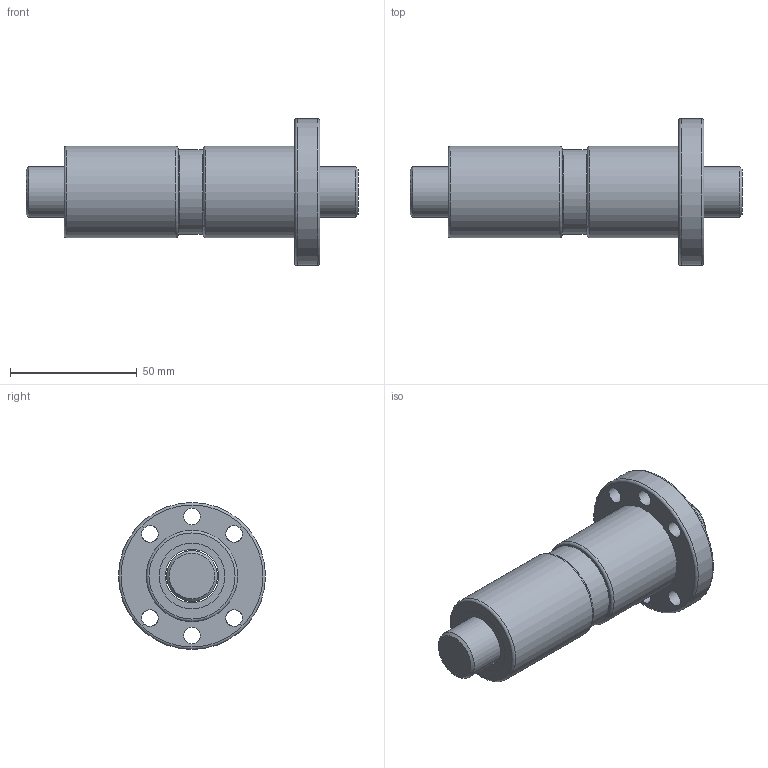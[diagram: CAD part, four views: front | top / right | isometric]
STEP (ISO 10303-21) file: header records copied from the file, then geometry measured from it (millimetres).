
FILE_DESCRIPTION(/* description */ (''),/* implementation_level */ '2;1');
FILE_NAME(/* name */ 'DFU2005',/* time_stamp */ '2007-10-26T10:53:14+08:00',/* author */ (''),/* organization */ (''),/* preprocessor_version */ 'ST-DEVELOPER v9',/* originating_system */ 'EDS PLM SOLUTIONS - UNIGRAPHICS NX 1.0',/* authorisation */ '');
FILE_SCHEMA (('CONFIG_CONTROL_DESIGN'));
Length unit declared in the file: millimetre
Products named in the file (1): FANNDA0400cn
Bounding box: 131 x 58 x 58 mm (x, y, z)
Volume: 121581.1 mm3; surface area: 37668.9 mm2
Topology: 6 solids, 6 shells, 44 faces, 83 edges, 54 vertices
Faces by surface type: cylinder 20, plane 15, torus 7, cone 2
Full cylindrical faces by diameter (mm): 6.6 x6, 20 x1, 21 x5, 26 x4, 33.5 x1, 36 x2, 58 x1
Entity records: 1054 total; most frequent: DIRECTION 188, CARTESIAN_POINT 143, EDGE_LOOP 98, ORIENTED_EDGE 98, AXIS2_PLACEMENT_3D 94, FACE_BOUND 81, VERTEX_POINT 49, EDGE_CURVE 49
